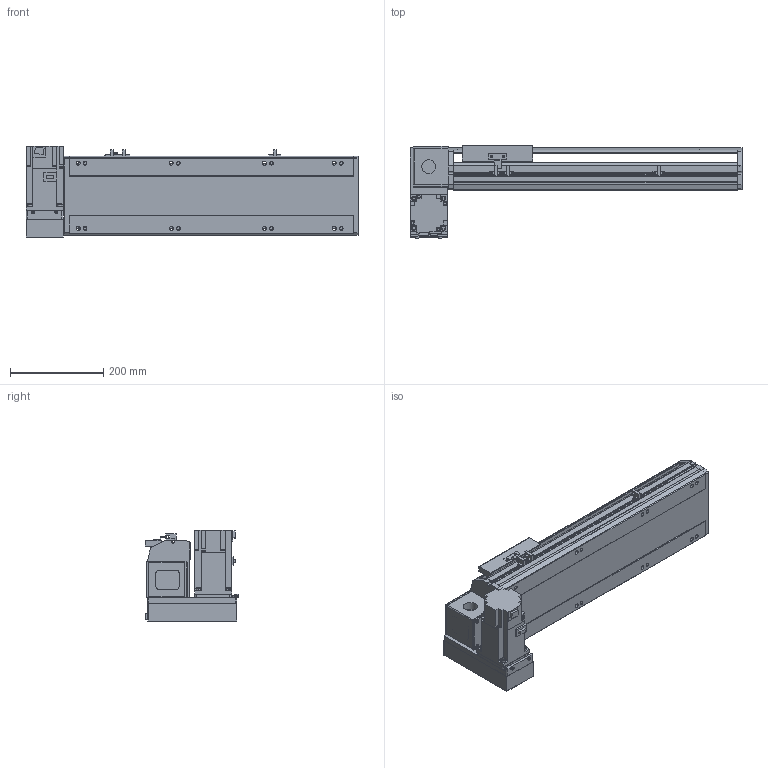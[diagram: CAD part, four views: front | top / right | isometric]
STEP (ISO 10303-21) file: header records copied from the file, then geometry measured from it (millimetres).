
FILE_DESCRIPTION( ( 'STEP AP214' ), '1' );
FILE_NAME( 'x:/temp/worker_3/temp/exporttempdir_5412_0_XIGhI/format_0/PBS170-P40-S350-LD-T75-C1-N(0).stp', '2022-06-07T07:50:25', ( 'License CC BY-ND 4.0' ), ( 'CADENAS' ), ' ', 'PARTsolutions', ' ' );
FILE_SCHEMA( ( 'AUTOMOTIVE_DESIGN { 1 0 10303 214 1 1 1 1 }' ) );
Length unit declared in the file: millimetre
Products named in the file (7): PBS170-P40-S350-LD-T75-C1-N(0); _PBS170-S350()_body; _PBS170T-LD_motors; _T75-p1; _PBS170_sliser; _PBS170_plant; _PBS170_sensor
Assembly tree (8 placements, depth 2):
  PBS170-P40-S350-LD-T75-C1-N(0)
    _PBS170-S350()_body
    _PBS170T-LD_motors
    _T75-p1
    _PBS170_sliser
    _PBS170_plant
    _PBS170_sensor  x3
Bounding box: 713 x 201 x 197.3 mm (x, y, z)
Volume: 6359559.9 mm3; surface area: 881161.6 mm2
Topology: 8 solids, 8 shells, 1018 faces, 2715 edges, 1770 vertices
Faces by surface type: plane 663, cylinder 307, cone 38, sphere 8, torus 2
Full cylindrical faces by diameter (mm): 3.242 x4, 4 x2, 4.4 x4, 4.5 x6, 4.917 x4, 6 x9, 6.647 x16, 7 x2, 7.5 x4, 8 x8, 8.5 x8, 10 x4, 10.5 x8, 11 x2, 30 x2, 40 x1, 70 x1
Entity records: 37172 total; most frequent: CARTESIAN_POINT 5549, DIRECTION 5020, ORIENTED_EDGE 4788, EDGE_CURVE 2394, AXIS2_PLACEMENT_3D 1717, VERTEX_POINT 1634, LINE 1586, VECTOR 1586
